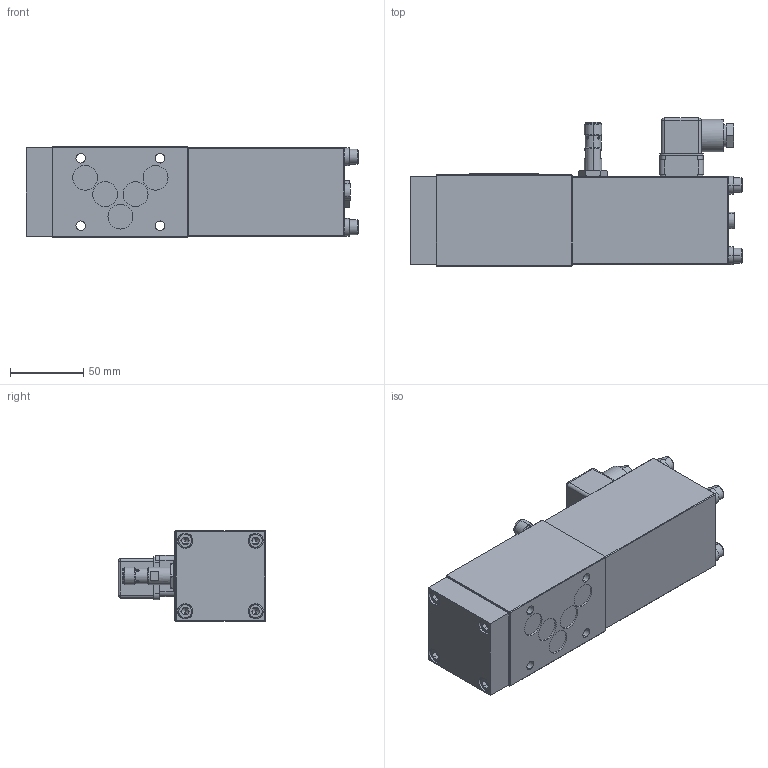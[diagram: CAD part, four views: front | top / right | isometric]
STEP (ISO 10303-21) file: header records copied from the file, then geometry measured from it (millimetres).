
FILE_DESCRIPTION (( 'STEP AP214' ), '1' );
FILE_NAME ('A.22100b-P1b.STEP', '2022-09-23T11:10:54', ( '' ), ( '' ), 'SwSTEP 2.0', 'SolidWorks 2020', '' );
FILE_SCHEMA (( 'AUTOMOTIVE_DESIGN' ));
Length unit declared in the file: millimetre
Products named in the file (1): A.22100b-P1b
Bounding box: 226.2 x 100.8 x 62 mm (x, y, z)
Volume: 835568.5 mm3; surface area: 77546 mm2
Topology: 1 solids, 1 shells, 483 faces, 1123 edges, 678 vertices
Faces by surface type: plane 289, cylinder 116, cone 38, bspline 24, torus 16
Entity records: 19240 total; most frequent: CARTESIAN_POINT 3249, DIRECTION 2328, ORIENTED_EDGE 2202, EDGE_CURVE 1101, AXIS2_PLACEMENT_3D 825, VERTEX_POINT 678, VECTOR 678, LINE 678
